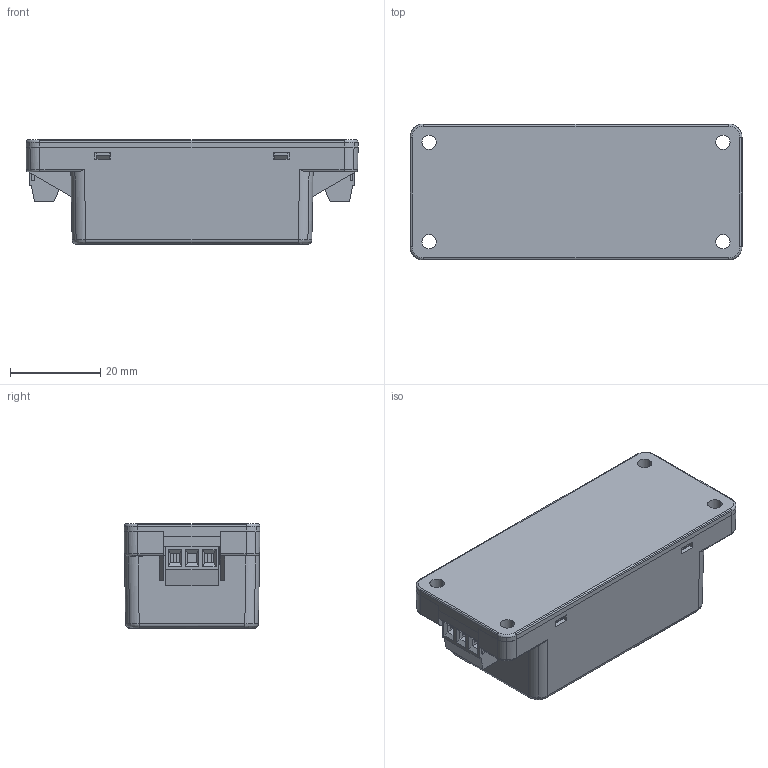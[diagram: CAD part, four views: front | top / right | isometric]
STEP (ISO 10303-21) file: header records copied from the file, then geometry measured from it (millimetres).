
FILE_DESCRIPTION (( 'STEP AP214' ), '1' );
FILE_NAME ('AMF-15S051C.STEP', '2024-03-07T09:56:35', ( '' ), ( '' ), 'SwSTEP 2.0', 'SolidWorks 2021', '' );
FILE_SCHEMA (( 'AUTOMOTIVE_DESIGN' ));
Length unit declared in the file: millimetre
Products named in the file (5): AMF-15 Chassis 端子台(ANYTEK)-小顆出腳2PIN_default; AMF-15 Chassis BASE_default; AMF-15S051C; AMF-15 Chassis PCB_default; AMF-15 Chassis CASE_default
Assembly tree (5 placements, depth 2):
  AMF-15S051C
    AMF-15 Chassis CASE_default
    AMF-15 Chassis PCB_default
    AMF-15 Chassis BASE_default
    AMF-15 Chassis 端子台(ANYTEK)-小顆出腳2PIN_default  x2
Bounding box: 73.5 x 30.1 x 23.1 mm (x, y, z)
Volume: 40569.1 mm3; surface area: 19269.1 mm2
Topology: 5 solids, 24 shells, 841 faces, 2222 edges, 1456 vertices
Faces by surface type: plane 579, cylinder 167, bspline 87, cone 4, torus 4
Entity records: 31728 total; most frequent: CARTESIAN_POINT 6869, ORIENTED_EDGE 3784, DIRECTION 3142, EDGE_CURVE 1892, VECTOR 1388, LINE 1388, VERTEX_POINT 1244, AXIS2_PLACEMENT_3D 877
